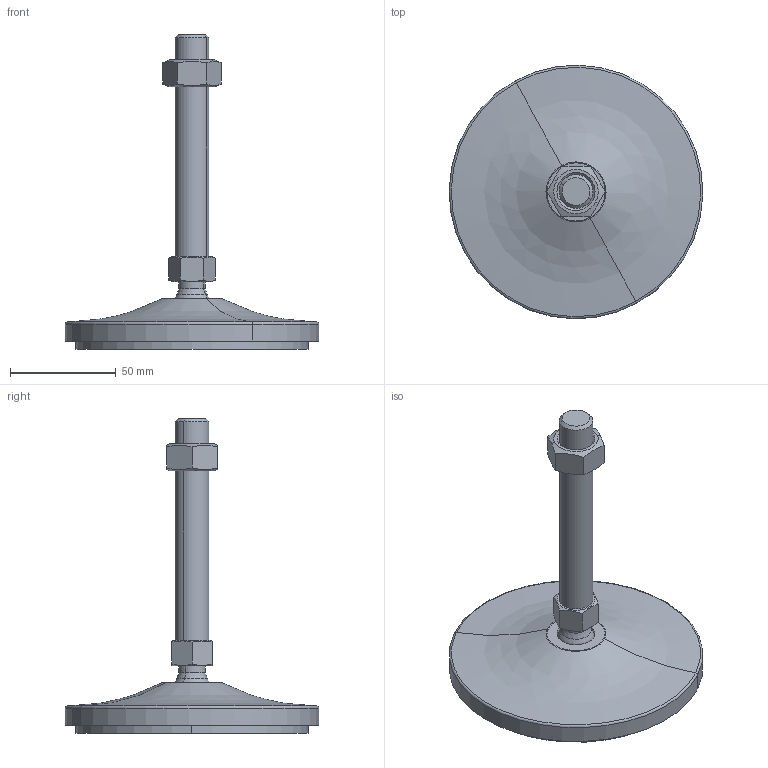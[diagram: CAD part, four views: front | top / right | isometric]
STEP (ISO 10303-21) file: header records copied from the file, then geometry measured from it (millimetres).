
FILE_DESCRIPTION(('CATIA V5 STEP Exchange'),'2;1');
FILE_NAME('C:\Users\ALI OZGUN\Desktop\alhan\saplama2\560121615AV.stp','2017-09-21T10:31:41+00:00',('none'),('none'),'CATIA Version 5 Release 21 GA (IN-10)','CATIA V5 STEP AP203','none');
FILE_SCHEMA(('CONFIG_CONTROL_DESIGN'));
Length unit declared in the file: millimetre
Products named in the file (1): 560121615AV
Bounding box: 119.97 x 119.97 x 149 mm (x, y, z)
Volume: 259036.2 mm3; surface area: 75241.7 mm2
Topology: 5 solids, 5 shells, 68 faces, 148 edges, 91 vertices
Faces by surface type: plane 24, cylinder 18, cone 16, torus 4, revolution 4, sphere 2
Entity records: 2015 total; most frequent: CARTESIAN_POINT 641, ORIENTED_EDGE 292, DIRECTION 209, EDGE_CURVE 146, AXIS2_PLACEMENT_3D 113, VERTEX_POINT 91, EDGE_LOOP 75, ADVANCED_FACE 68
